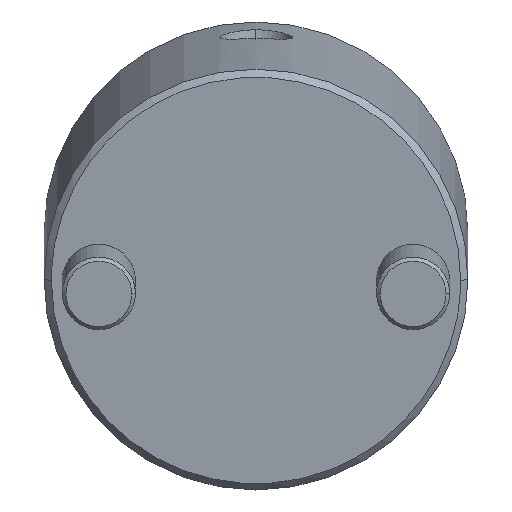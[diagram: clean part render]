
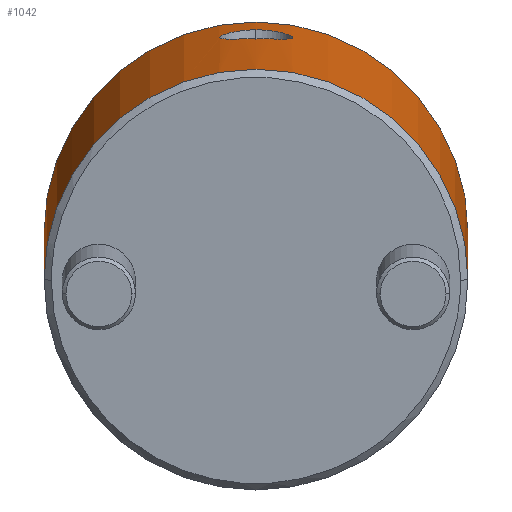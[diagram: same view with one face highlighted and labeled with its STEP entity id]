
A CAD part, front view. The second image highlights one B-rep face of the part: STEP entity #1042.
In plain terms, the highlighted cylindrical face has radius 29 mm (diameter 58 mm), a partial arc.
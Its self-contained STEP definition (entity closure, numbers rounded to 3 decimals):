
#772=CARTESIAN_POINT('Vertex',(0.,29.,1.)) ;
#775=CARTESIAN_POINT('Axis2P3D Location',(0.,0.,1.)) ;
#779=CARTESIAN_POINT('Vertex',(0.,-29.,1.)) ;
#931=CARTESIAN_POINT('Axis2P3D Location',(0.,0.,-2.75)) ;
#936=CARTESIAN_POINT('Line Origine',(0.,29.,-2.75)) ;
#940=CARTESIAN_POINT('Vertex',(0.,29.,54.)) ;
#943=CARTESIAN_POINT('Axis2P3D Location',(0.,0.,54.)) ;
#947=CARTESIAN_POINT('Vertex',(0.,-29.,54.)) ;
#950=CARTESIAN_POINT('Line Origine',(0.,-29.,-2.75)) ;
#962=CARTESIAN_POINT('Control Point',(29.,0.,45.192)) ;
#963=CARTESIAN_POINT('Control Point',(29.,0.432,45.192)) ;
#964=CARTESIAN_POINT('Control Point',(28.992,0.86,45.145)) ;
#965=CARTESIAN_POINT('Control Point',(28.976,1.284,45.049)) ;
#966=CARTESIAN_POINT('Control Point',(28.942,1.899,44.838)) ;
#967=CARTESIAN_POINT('Control Point',(28.895,2.472,44.529)) ;
#968=CARTESIAN_POINT('Control Point',(28.879,2.66,44.414)) ;
#969=CARTESIAN_POINT('Control Point',(28.844,3.021,44.165)) ;
#970=CARTESIAN_POINT('Control Point',(28.806,3.354,43.877)) ;
#971=CARTESIAN_POINT('Control Point',(28.787,3.513,43.724)) ;
#972=CARTESIAN_POINT('Control Point',(28.739,3.89,43.318)) ;
#973=CARTESIAN_POINT('Control Point',(28.694,4.211,42.864)) ;
#974=CARTESIAN_POINT('Control Point',(28.668,4.38,42.576)) ;
#975=CARTESIAN_POINT('Control Point',(28.614,4.721,41.876)) ;
#976=CARTESIAN_POINT('Control Point',(28.579,4.924,41.129)) ;
#977=CARTESIAN_POINT('Control Point',(28.567,4.994,40.69)) ;
#978=CARTESIAN_POINT('Control Point',(28.561,5.028,40.032)) ;
#979=CARTESIAN_POINT('Control Point',(28.574,4.955,39.378)) ;
#980=CARTESIAN_POINT('Control Point',(28.58,4.919,39.162)) ;
#981=CARTESIAN_POINT('Control Point',(28.596,4.824,38.737)) ;
#982=CARTESIAN_POINT('Control Point',(28.619,4.684,38.325)) ;
#983=CARTESIAN_POINT('Control Point',(28.633,4.603,38.124)) ;
#984=CARTESIAN_POINT('Control Point',(28.662,4.418,37.729)) ;
#985=CARTESIAN_POINT('Control Point',(28.696,4.192,37.358)) ;
#986=CARTESIAN_POINT('Control Point',(28.714,4.068,37.179)) ;
#987=CARTESIAN_POINT('Control Point',(28.751,3.802,36.834)) ;
#988=CARTESIAN_POINT('Control Point',(28.789,3.499,36.521)) ;
#989=CARTESIAN_POINT('Control Point',(28.808,3.34,36.373)) ;
#990=CARTESIAN_POINT('Control Point',(28.845,3.005,36.094)) ;
#991=CARTESIAN_POINT('Control Point',(28.88,2.64,35.854)) ;
#992=CARTESIAN_POINT('Control Point',(28.897,2.45,35.743)) ;
#993=CARTESIAN_POINT('Control Point',(28.943,1.879,35.45)) ;
#994=CARTESIAN_POINT('Control Point',(28.977,1.266,35.25)) ;
#995=CARTESIAN_POINT('Control Point',(28.992,0.846,35.161)) ;
#996=CARTESIAN_POINT('Control Point',(29.,0.425,35.117)) ;
#997=CARTESIAN_POINT('Control Point',(29.,0.,35.117)) ;
#998=CARTESIAN_POINT('Vertex',(29.,0.,45.192)) ;
#1000=CARTESIAN_POINT('Vertex',(29.,0.,35.117)) ;
#1004=CARTESIAN_POINT('Control Point',(29.,0.,35.117)) ;
#1005=CARTESIAN_POINT('Control Point',(29.,-0.219,35.117)) ;
#1006=CARTESIAN_POINT('Control Point',(28.998,-0.438,35.129)) ;
#1007=CARTESIAN_POINT('Control Point',(28.994,-0.654,35.152)) ;
#1008=CARTESIAN_POINT('Control Point',(28.982,-1.087,35.223)) ;
#1009=CARTESIAN_POINT('Control Point',(28.962,-1.509,35.34)) ;
#1010=CARTESIAN_POINT('Control Point',(28.95,-1.716,35.409)) ;
#1011=CARTESIAN_POINT('Control Point',(28.924,-2.122,35.571)) ;
#1012=CARTESIAN_POINT('Control Point',(28.892,-2.509,35.776)) ;
#1013=CARTESIAN_POINT('Control Point',(28.875,-2.697,35.889)) ;
#1014=CARTESIAN_POINT('Control Point',(28.822,-3.238,36.256)) ;
#1015=CARTESIAN_POINT('Control Point',(28.764,-3.712,36.708)) ;
#1016=CARTESIAN_POINT('Control Point',(28.725,-3.995,37.044)) ;
#1017=CARTESIAN_POINT('Control Point',(28.672,-4.359,37.589)) ;
#1018=CARTESIAN_POINT('Control Point',(28.628,-4.629,38.185)) ;
#1019=CARTESIAN_POINT('Control Point',(28.616,-4.707,38.388)) ;
#1020=CARTESIAN_POINT('Control Point',(28.593,-4.842,38.801)) ;
#1021=CARTESIAN_POINT('Control Point',(28.578,-4.931,39.227)) ;
#1022=CARTESIAN_POINT('Control Point',(28.572,-4.964,39.445)) ;
#1023=CARTESIAN_POINT('Control Point',(28.561,-5.029,40.099)) ;
#1024=CARTESIAN_POINT('Control Point',(28.568,-4.986,40.757)) ;
#1025=CARTESIAN_POINT('Control Point',(28.581,-4.911,41.195)) ;
#1026=CARTESIAN_POINT('Control Point',(28.623,-4.666,42.047)) ;
#1027=CARTESIAN_POINT('Control Point',(28.689,-4.244,42.835)) ;
#1028=CARTESIAN_POINT('Control Point',(28.726,-3.992,43.203)) ;
#1029=CARTESIAN_POINT('Control Point',(28.803,-3.411,43.879)) ;
#1030=CARTESIAN_POINT('Control Point',(28.877,-2.708,44.408)) ;
#1031=CARTESIAN_POINT('Control Point',(28.91,-2.329,44.633)) ;
#1032=CARTESIAN_POINT('Control Point',(28.959,-1.65,44.942)) ;
#1033=CARTESIAN_POINT('Control Point',(28.988,-0.925,45.118)) ;
#1034=CARTESIAN_POINT('Control Point',(28.996,-0.618,45.168)) ;
#1035=CARTESIAN_POINT('Control Point',(29.,-0.31,45.192)) ;
#1036=CARTESIAN_POINT('Control Point',(29.,0.,45.192)) ;
#776=DIRECTION('Axis2P3D Direction',(0.,0.,1.)) ;
#932=DIRECTION('Axis2P3D Direction',(0.,-0.,1.)) ;
#933=DIRECTION('Axis2P3D XDirection',(0.,-1.,0.)) ;
#937=DIRECTION('Vector Direction',(0.,0.,1.)) ;
#944=DIRECTION('Axis2P3D Direction',(0.,-0.,1.)) ;
#951=DIRECTION('Vector Direction',(0.,0.,1.)) ;
#777=AXIS2_PLACEMENT_3D('Circle Axis2P3D',#775,#776,$) ;
#934=AXIS2_PLACEMENT_3D('Cylinder Axis2P3D',#931,#932,#933) ;
#945=AXIS2_PLACEMENT_3D('Circle Axis2P3D',#943,#944,$) ;
#956=ORIENTED_EDGE('',*,*,#942,.F.) ;
#957=ORIENTED_EDGE('',*,*,#949,.T.) ;
#958=ORIENTED_EDGE('',*,*,#954,.T.) ;
#959=ORIENTED_EDGE('',*,*,#781,.F.) ;
#1039=ORIENTED_EDGE('',*,*,#1002,.T.) ;
#1040=ORIENTED_EDGE('',*,*,#1037,.T.) ;
#1041=FACE_BOUND('',#1038,.T.) ;
#938=VECTOR('Line Direction',#937,1.) ;
#952=VECTOR('Line Direction',#951,1.) ;
#1042=ADVANCED_FACE('MANIFOLD_SOLID_BREP #1146',(#960,#1041),#935,.T.) ;
#961=B_SPLINE_CURVE_WITH_KNOTS('',5,(#962,#963,#964,#965,#966,#967,#968,#969,#970,#971,#972,#973,#974,#975,#976,#977,#978,#979,#980,#981,#982,#983,#984,#985,#986,#987,#988,#989,#990,#991,#992,#993,#994,#995,#996,#997),.UNSPECIFIED.,.F.,.U.,(6,3,3,3,3,3,3,3,3,3,3,6),(0.,3.075,4.626,6.186,8.52,11.622,13.164,14.707,16.25,17.799,19.348,22.349),.UNSPECIFIED.) ;
#1003=B_SPLINE_CURVE_WITH_KNOTS('',5,(#1004,#1005,#1006,#1007,#1008,#1009,#1010,#1011,#1012,#1013,#1014,#1015,#1016,#1017,#1018,#1019,#1020,#1021,#1022,#1023,#1024,#1025,#1026,#1027,#1028,#1029,#1030,#1031,#1032,#1033,#1034,#1035,#1036),.UNSPECIFIED.,.F.,.U.,(6,3,3,3,3,3,3,3,3,3,6),(0.,1.549,3.098,4.646,7.739,9.281,10.823,13.925,17.042,20.14,22.346),.UNSPECIFIED.) ;
#778=CIRCLE('generated circle',#777,29.) ;
#946=CIRCLE('generated circle',#945,29.) ;
#935=CYLINDRICAL_SURFACE('generated cylinder',#934,29.) ;
#781=EDGE_CURVE('',#773,#780,#778,.F.) ;
#942=EDGE_CURVE('',#941,#773,#939,.F.) ;
#949=EDGE_CURVE('',#941,#948,#946,.F.) ;
#954=EDGE_CURVE('',#948,#780,#953,.F.) ;
#1002=EDGE_CURVE('',#999,#1001,#961,.T.) ;
#1037=EDGE_CURVE('',#1001,#999,#1003,.T.) ;
#955=EDGE_LOOP('',(#956,#957,#958,#959)) ;
#1038=EDGE_LOOP('',(#1039,#1040)) ;
#960=FACE_OUTER_BOUND('',#955,.T.) ;
#939=LINE('Line',#936,#938) ;
#953=LINE('Line',#950,#952) ;
#773=VERTEX_POINT('',#772) ;
#780=VERTEX_POINT('',#779) ;
#941=VERTEX_POINT('',#940) ;
#948=VERTEX_POINT('',#947) ;
#999=VERTEX_POINT('',#998) ;
#1001=VERTEX_POINT('',#1000) ;
